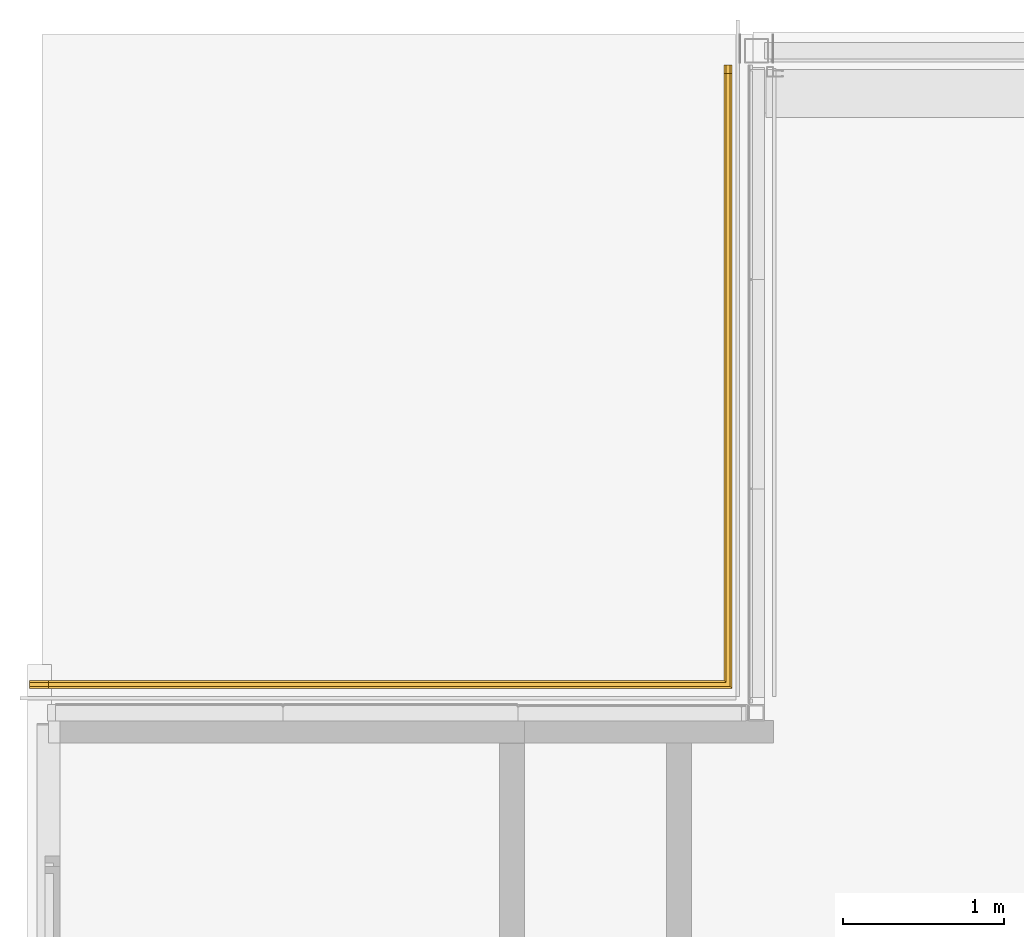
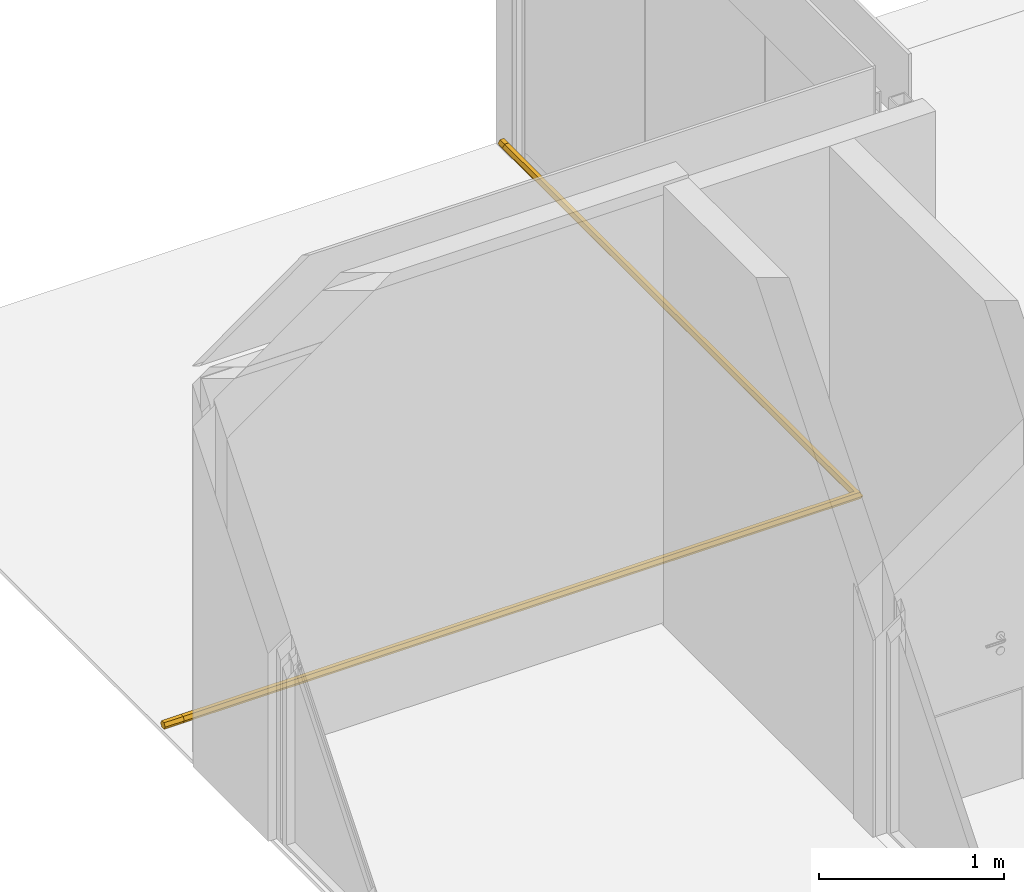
# One storey, part 31 of 37: 2 railings.
"""IFC2X3 building model written with IfcOpenShell, lengths in millimetres."""

from ifc_helpers import new_model, entity, si_unit, converted_unit, derived_unit, direction, frame, origin_with_axes, place, context, subcontext, project, spatial, faceted_brep, material, type_object, element, save


model = new_model("IFC2X3")

# Units and contexts
model_context = context("Model", 3, precision=0.01, world=frame((0.0, 4.29681676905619e-09, 0.0)), true_north=direction((4.01073788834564e-13, 1.0)))
plan_context = context("Plan", 3, precision=0.01, world=frame((0.0, 4.29681676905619e-09, 0.0)), true_north=direction((4.01073788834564e-13, 1.0)))
body_context = subcontext(model_context, "Body", "Model", "MODEL_VIEW")
ifc_project = project(units=[converted_unit("PLANEANGLEUNIT", "DEGREE", entity("IfcPositiveLengthMeasure", 0.0174532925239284), si_unit("PLANEANGLEUNIT", "RADIAN"), dimensions=[0, 0, 0, 0, 0, 0, 0]), si_unit("AREAUNIT", "SQUARE_METRE"), si_unit("LENGTHUNIT", "METRE", prefix="MILLI"), si_unit("MASSUNIT", "GRAM", prefix="KILO"), si_unit("POWERUNIT", "WATT"), si_unit("PRESSUREUNIT", "PASCAL"), si_unit("FORCEUNIT", "NEWTON", prefix="KILO"), si_unit("ELECTRICVOLTAGEUNIT", "VOLT"), si_unit("ELECTRICCURRENTUNIT", "AMPERE"), si_unit("THERMODYNAMICTEMPERATUREUNIT", "DEGREE_CELSIUS"), si_unit("TIMEUNIT", "SECOND"), si_unit("VOLUMEUNIT", "CUBIC_METRE"), derived_unit("LINEARVELOCITYUNIT", [(si_unit("LENGTHUNIT", "METRE"), 1), (si_unit("TIMEUNIT", "SECOND"), -1)]), derived_unit("VOLUMETRICFLOWRATEUNIT", [(si_unit("VOLUMEUNIT", "CUBIC_METRE"), 1), (si_unit("TIMEUNIT", "SECOND"), -1)]), derived_unit("THERMALTRANSMITTANCEUNIT", [(si_unit("POWERUNIT", "WATT"), 1), (si_unit("THERMODYNAMICTEMPERATUREUNIT", "KELVIN"), -1), (si_unit("AREAUNIT", "SQUARE_METRE"), -1)]), derived_unit("SOUNDPRESSUREUNIT", [(si_unit("PRESSUREUNIT", "PASCAL"), 1)])], contexts=[model_context, plan_context])

# Site, building, storey
site_placement = place(None, origin_with_axes())
site = spatial("IfcSite", under=ifc_project, at=site_placement, Name="ENGM", CompositionType="ELEMENT")
building_placement = place(site_placement, origin_with_axes())
building = spatial("IfcBuilding", under=site, at=building_placement, Name="TS", CompositionType="ELEMENT")
storey_placement = place(building_placement, frame((0.0, 0.0, 210900.0), z_axis=(0.0, 0.0, 1.0), x_axis=(1.0, 0.0, 0.0)))
storey = spatial("IfcBuildingStorey", under=building, at=storey_placement, Name="Nivå F", CompositionType="ELEMENT", Elevation=210900.0)

# Railings
ifc_material = material(Name="<Unnamed>")
railing_type = type_object("IfcRailingType", Name="Railing:A247 Fendring - FE-S01 - Avviser, montert m. brakett mot dekke, 1 rør Ø=49 mm", PredefinedType="NOTDEFINED")
railing_1_placement = place(storey_placement, frame((520587.000000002, 457848.404727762, 120.40472776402), z_axis=(0.0, 0.0, 1.0), x_axis=(1.0, 0.0, 0.0)))
element("IfcRailing", 1, at=railing_1_placement, inside=storey, type_object=railing_type, material=ifc_material, Name="Railing:A247 Fendring - FE-S01 - Avviser, montert m. brakett mot dekke, 1 rør Ø=49 mm", ObjectType="Railing:A247 Fendring - FE-S01 - Avviser, montert m. brakett mot dekke, 1 rør Ø=49 mm", PredefinedType="NOTDEFINED", context=body_context, shape_type="Brep", body=[
    faceted_brep([(0.0, 51.5952722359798, 26.5952722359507), (0.0, 48.8456821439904, 21.8328424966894), (0.0, 46.0960920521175, 17.0704127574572), (0.0, 42.5956821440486, 11.0075249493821), (0.0, 39.0952722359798, 4.94463714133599), (0.0, 32.8452722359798, 4.94463714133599), (0.0, 26.5952722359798, 4.94463714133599), (0.0, 20.3452722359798, 4.94463714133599), (0.0, 14.0952722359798, 4.94463714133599), (0.0, 10.9702722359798, 10.3572959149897), (0.0, 7.84527223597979, 15.7699546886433), (0.0, 4.72027223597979, 21.182613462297), (0.0, 1.59527223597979, 26.5952722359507), (0.0, 4.72027223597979, 32.0079310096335), (0.0, 7.84527223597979, 37.420589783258), (0.0, 10.9702722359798, 42.8332485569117), (0.0, 14.0952722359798, 48.2459073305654), (0.0, 20.3452722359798, 48.2459073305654), (0.0, 26.5952722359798, 48.2459073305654), (0.0, 32.8452722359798, 48.2459073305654), (0.0, 39.0952722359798, 48.2459073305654), (0.0, 42.2202722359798, 42.8332485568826), (0.0, 45.3452722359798, 37.420589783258), (0.0, 48.8456821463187, 31.3577019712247), (4195.49999999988, 39.0952722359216, 48.2459073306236), (4201.74999999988, 32.8452722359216, 48.2459073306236), (4208.0, 26.5952722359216, 48.2459073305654), (4214.24999999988, 20.3452722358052, 48.2459073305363), (4220.49999999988, 14.0952722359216, 48.2459073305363), (4220.49999999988, 3811.41957467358, 48.2459073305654), (4214.24999999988, 3811.41957467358, 48.2459073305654), (4208.0, 3811.41957467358, 48.2459073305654), (4201.74999999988, 3811.41957467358, 48.2459073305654), (4195.49999999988, 3811.41957467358, 48.2459073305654), (4192.37499999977, 42.2202722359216, 42.8332485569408), (4189.24999999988, 45.3452722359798, 37.420589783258), (4186.12499999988, 48.4702722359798, 32.0079310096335), (4183.0, 51.5952722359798, 26.5952722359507), (4233.0, 1.59527223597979, 26.5952722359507), (4230.25041124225, 4.34486099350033, 31.3576996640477), (4229.94500140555, 4.6502708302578, 31.8866850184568), (4226.89000281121, 7.70526942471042, 37.178097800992), (4226.74999999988, 7.84527223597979, 37.420589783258), (4223.62499999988, 10.9702722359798, 42.8332485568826), (4186.12499999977, 48.4702722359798, 21.182613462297), (4189.24999999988, 45.3452722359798, 15.7699546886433), (4192.37499999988, 42.2202722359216, 10.3572959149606), (4195.49999999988, 39.0952722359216, 4.94463714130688), (4208.0, 26.5952722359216, 4.94463714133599), (4201.74999999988, 32.8452722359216, 4.94463714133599), (4201.74999999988, 3811.41957467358, 4.94463714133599), (4195.49999999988, 3811.41957467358, 4.94463714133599), (4208.0, 3811.41957467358, 4.94463714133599), (4214.24999999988, 3811.41957467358, 4.94463714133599), (4214.24999999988, 20.3452722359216, 4.94463714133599), (4220.49999999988, 3811.41957467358, 4.94463714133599), (4220.49999999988, 14.0952722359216, 4.94463714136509), (4230.25041124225, 4.34486099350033, 21.8328448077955), (4223.62499999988, 10.9702722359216, 10.3572959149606), (4224.00041124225, 10.5948609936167, 11.0075272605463), (4226.74999999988, 7.84527223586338, 15.7699546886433), (4227.50082248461, 7.0944497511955, 17.0704173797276), (4229.94500140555, 4.650270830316, 21.3038594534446), (4192.30500042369, 3811.41957467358, 10.478538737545), (4189.11000084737, 3811.41957467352, 16.012440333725), (4186.05500042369, 3811.41957467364, 21.3038562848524), (4183.0, 3811.41957467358, 26.5952722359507), (4186.05500042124, 3811.41957467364, 31.8866881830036), (4189.24999999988, 3811.41957467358, 37.420589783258), (4192.37499999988, 3811.41957467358, 42.8332485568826), (4223.62499999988, 3811.41957467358, 42.8332485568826), (4226.74999999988, 3811.41957467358, 37.420589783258), (4229.87499999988, 3811.41957467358, 32.0079310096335), (4233.0, 3811.41957467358, 26.5952722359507), (4229.87499999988, 3811.41957467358, 21.182613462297), (4226.74999999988, 3811.41957467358, 15.7699546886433), (4223.62499999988, 3811.41957467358, 10.3572959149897)], [[[0, 1, 2, 3, 4, 5, 6, 7, 8, 9, 10, 11, 12, 13, 14, 15, 16, 17, 18, 19, 20, 21, 22, 23]], [[19, 24, 20]], [[24, 19, 25]], [[19, 18, 25]], [[26, 25, 18]], [[17, 26, 18]], [[26, 17, 27]], [[17, 16, 27]], [[16, 28, 27]], [[29, 27, 28]], [[27, 29, 30]], [[30, 26, 27]], [[30, 31, 26]], [[26, 31, 25]], [[31, 32, 25]], [[33, 24, 32]], [[32, 24, 25]], [[22, 21, 20, 24, 34, 35, 36, 37, 0, 23]], [[12, 38, 39, 40, 41, 42, 43, 28, 16, 15, 14, 13]], [[2, 1, 0, 37, 44, 45, 46, 47, 4, 3]], [[6, 48, 7]], [[6, 49, 48]], [[49, 6, 5]], [[5, 47, 49]], [[5, 4, 47]], [[49, 47, 50]], [[47, 51, 50]], [[52, 49, 50]], [[52, 53, 48]], [[49, 52, 48]], [[48, 54, 7]], [[54, 48, 53]], [[55, 54, 53]], [[54, 55, 56]], [[56, 8, 54]], [[54, 8, 7]], [[57, 38, 12, 11, 10, 9, 8, 56, 58, 59, 60, 61, 62]], [[63, 64, 65, 66, 67, 68, 69, 33, 32, 31, 30, 29, 70, 71, 72, 73, 74, 75, 76, 55, 53, 52, 50, 51]], [[71, 70, 29, 28, 43, 42, 41, 40, 39, 38, 73, 72]], [[35, 34, 24, 33, 69, 68, 67, 66, 37, 36]], [[45, 44, 37, 66, 65, 64, 63, 51, 47, 46]], [[76, 75, 74, 73, 38, 57, 62, 61, 60, 59, 58, 56, 55]]]),
])
railing_2_placement = place(storey_placement, frame((520467.500000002, 457848.404727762, 120.40472776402), z_axis=(0.0, 0.0, 1.0), x_axis=(1.0, 0.0, 0.0)))
element("IfcRailing", 2, at=railing_2_placement, inside=storey, type_object=railing_type, material=ifc_material, Name="Railing:A247 Fendring - FE-S01 - Avviser, montert m. brakett mot dekke, 1 rør Ø=49 mm", ObjectType="Railing:A247 Fendring - FE-S01 - Avviser, montert m. brakett mot dekke, 1 rør Ø=49 mm", PredefinedType="NOTDEFINED", context=body_context, shape_type="Brep", body=[
    faceted_brep([(0.0, 51.5952722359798, 26.5952722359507), (0.0, 48.9211734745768, 21.9635973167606), (0.0, 46.2470747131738, 17.3319223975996), (0.0, 42.671173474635, 11.1382797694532), (0.0, 39.0952722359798, 4.94463714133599), (0.0, 32.8452722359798, 4.94463714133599), (0.0, 26.5952722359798, 4.94463714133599), (0.0, 20.3452722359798, 4.94463714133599), (0.0, 14.0952722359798, 4.94463714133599), (0.0, 10.9702722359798, 10.3572959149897), (0.0, 7.84527223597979, 15.7699546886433), (0.0, 4.72027223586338, 21.182613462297), (0.0, 1.59527223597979, 26.5952722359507), (0.0, 4.72027223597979, 32.0079310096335), (0.0, 7.84527223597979, 37.420589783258), (0.0, 10.9702722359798, 42.8332485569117), (0.0, 14.0952722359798, 48.2459073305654), (0.0, 20.3452722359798, 48.2459073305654), (0.0, 26.5952722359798, 48.2459073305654), (0.0, 32.8452722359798, 48.2459073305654), (0.0, 39.0952722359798, 48.2459073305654), (0.0, 42.2202722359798, 42.8332485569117), (0.0, 45.3452722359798, 37.420589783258), (0.0, 48.9211734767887, 31.2269471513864), (4315.0, 39.0952722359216, 48.2459073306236), (4321.24999999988, 32.8452722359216, 48.2459073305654), (4327.49999999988, 26.5952722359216, 48.2459073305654), (4333.74999999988, 20.3452722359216, 48.2459073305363), (4340.0, 14.0952722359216, 48.2459073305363), (4340.0, 3861.59527223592, 48.2459073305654), (4333.74999999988, 3861.59527223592, 48.2459073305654), (4327.49999999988, 3861.59527223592, 48.2459073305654), (4321.24999999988, 3861.59527223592, 48.2459073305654), (4315.0, 3861.59527223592, 48.2459073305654), (4311.87499999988, 42.2202722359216, 42.8332485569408), (4308.74999999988, 45.3452722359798, 37.420589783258), (4305.62499999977, 48.4702722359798, 32.0079310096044), (4302.49999999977, 51.5952722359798, 26.5952722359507), (4352.49999999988, 1.59527223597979, 26.5952722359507), (4349.82590246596, 4.26936976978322, 31.2269450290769), (4349.48471293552, 4.6105593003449, 31.8179026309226), (4346.46942587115, 7.62584636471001, 37.0405330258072), (4346.24999999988, 7.84527223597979, 37.420589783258), (4343.23471293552, 10.8605593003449, 42.64322017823), (4343.12499999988, 10.9702722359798, 42.8332485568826), (4305.62499999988, 48.4702722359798, 21.182613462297), (4308.74999999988, 45.3452722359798, 15.7699546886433), (4311.87499999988, 42.2202722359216, 10.3572959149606), (4315.0, 39.0952722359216, 4.94463714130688), (4327.49999999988, 26.5952722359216, 4.94463714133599), (4321.24999999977, 32.8452722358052, 4.94463714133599), (4321.24999999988, 3861.59527223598, 4.94463714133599), (4315.0, 3861.59527223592, 4.94463714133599), (4327.49999999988, 3861.59527223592, 4.94463714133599), (4333.74999999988, 3861.59527223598, 4.94463714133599), (4333.74999999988, 20.3452722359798, 4.94463714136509), (4340.0, 3861.59527223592, 4.94463714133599), (4340.0, 14.0952722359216, 4.94463714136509), (4349.82590246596, 4.26936976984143, 21.9635994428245), (4343.12499999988, 10.9702722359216, 10.3572959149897), (4343.57590246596, 10.5193697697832, 11.1382818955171), (4346.24999999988, 7.84527223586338, 15.7699546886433), (4347.15180493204, 6.94346730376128, 17.3319266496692), (4349.48471293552, 4.6105593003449, 21.3726418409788), (4311.76528882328, 3861.59527223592, 10.5473212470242), (4308.53057764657, 3861.59527223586, 16.1500053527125), (4305.51528882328, 3861.59527223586, 21.3726387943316), (4302.49999999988, 3861.59527223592, 26.5952722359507), (4305.51528882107, 3861.59527223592, 31.8179056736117), (4308.74999999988, 3861.59527223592, 37.420589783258), (4311.87499999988, 3861.59527223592, 42.8332485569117), (4343.12499999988, 3861.59527223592, 42.8332485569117), (4346.24999999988, 3861.59527223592, 37.420589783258), (4349.37499999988, 3861.59527223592, 32.0079310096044), (4352.49999999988, 3861.59527223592, 26.5952722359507), (4349.37499999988, 3861.59527223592, 21.182613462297), (4346.24999999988, 3861.59527223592, 15.7699546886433), (4343.12499999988, 3861.59527223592, 10.3572959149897)], [[[0, 1, 2, 3, 4, 5, 6, 7, 8, 9, 10, 11, 12, 13, 14, 15, 16, 17, 18, 19, 20, 21, 22, 23]], [[19, 24, 20]], [[24, 19, 25]], [[19, 18, 25]], [[26, 25, 18]], [[17, 26, 18]], [[26, 17, 27]], [[17, 16, 27]], [[16, 28, 27]], [[29, 27, 28]], [[27, 29, 30]], [[30, 26, 27]], [[30, 31, 26]], [[26, 31, 25]], [[31, 32, 25]], [[33, 24, 32]], [[32, 24, 25]], [[22, 21, 20, 24, 34, 35, 36, 37, 0, 23]], [[12, 38, 39, 40, 41, 42, 43, 44, 28, 16, 15, 14, 13]], [[2, 1, 0, 37, 45, 46, 47, 48, 4, 3]], [[6, 49, 7]], [[6, 50, 49]], [[50, 6, 5]], [[5, 48, 50]], [[5, 4, 48]], [[50, 48, 51]], [[48, 52, 51]], [[53, 50, 51]], [[53, 54, 49]], [[50, 53, 49]], [[49, 55, 7]], [[55, 49, 54]], [[56, 55, 54]], [[55, 56, 57]], [[57, 8, 55]], [[55, 8, 7]], [[58, 38, 12, 11, 10, 9, 8, 57, 59, 60, 61, 62, 63]], [[64, 65, 66, 67, 68, 69, 70, 33, 32, 31, 30, 29, 71, 72, 73, 74, 75, 76, 77, 56, 54, 53, 51, 52]], [[72, 71, 29, 28, 44, 43, 42, 41, 40, 39, 38, 74, 73]], [[35, 34, 24, 33, 70, 69, 68, 67, 37, 36]], [[46, 45, 37, 67, 66, 65, 64, 52, 48, 47]], [[77, 76, 75, 74, 38, 58, 63, 62, 61, 60, 59, 57, 56]]]),
])

save(model, "model.ifc")
